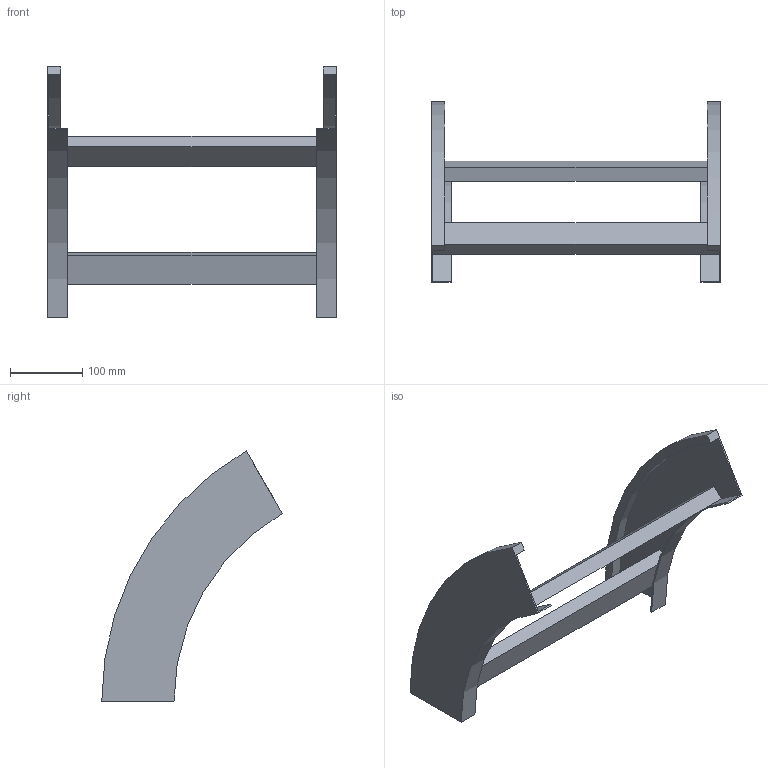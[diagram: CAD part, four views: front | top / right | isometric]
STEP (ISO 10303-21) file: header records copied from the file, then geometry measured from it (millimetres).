
FILE_DESCRIPTION (( 'STEP AP214' ), '1' );
FILE_NAME ('B2_41B3D400.step', '2025-02-21T14:57:12', ( '' ), ( '' ), 'SwSTEP 2.0', 'SolidWorks 2023', '' );
FILE_SCHEMA (( 'AUTOMOTIVE_DESIGN' ));
Length unit declared in the file: millimetre
Products named in the file (3): TRAVERSINO_400; B2_41B3D400; B2_LONGH.DISCESA_60°_H100_R300
Assembly tree (4 placements, depth 2):
  B2_41B3D400
    B2_LONGH.DISCESA_60°_H100_R300  x2
    TRAVERSINO_400  x2
Bounding box: 400 x 250 x 346.41 mm (x, y, z)
Volume: 978085.1 mm3; surface area: 308306.6 mm2
Topology: 4 solids, 4 shells, 32 faces, 72 edges, 48 vertices
Faces by surface type: plane 24, cylinder 8
Entity records: 552 total; most frequent: DIRECTION 90, CARTESIAN_POINT 83, ORIENTED_EDGE 72, EDGE_CURVE 36, AXIS2_PLACEMENT_3D 31, LINE 28, VECTOR 28, VERTEX_POINT 24
